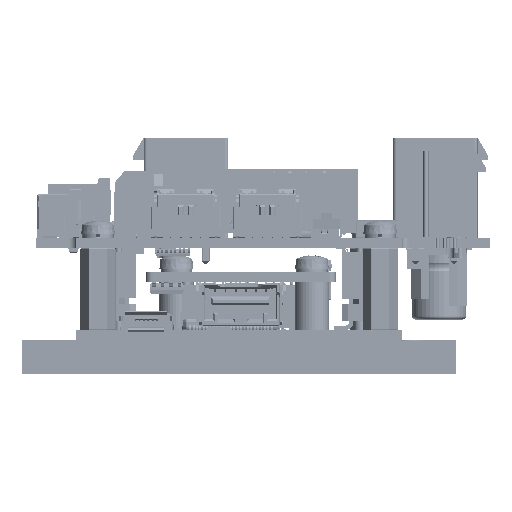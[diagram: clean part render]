
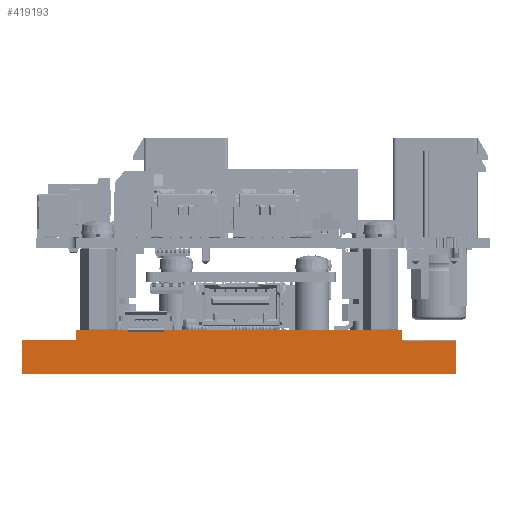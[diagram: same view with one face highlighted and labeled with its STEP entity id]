
A CAD part, front view. The second image highlights one B-rep face of the part: STEP entity #419193.
In plain terms, the highlighted planar face has unit normal (0, -1, 0).
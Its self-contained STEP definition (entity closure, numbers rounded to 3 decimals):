
#3903=DIRECTION('',(-1.,0.,0.));
#3904=VECTOR('',#3903,48.);
#3905=CARTESIAN_POINT('',(-62.976,-173.654,
-25.099));
#3906=LINE('',#3905,#3904);
#10836=DIRECTION('',(-1.,0.,0.));
#10837=VECTOR('',#10836,8.);
#10838=CARTESIAN_POINT('',(-110.976,-173.654,
-26.647));
#10839=LINE('',#10838,#10837);
#11092=DIRECTION('',(0.,0.,-1.));
#11093=VECTOR('',#11092,1.548);
#11094=CARTESIAN_POINT('',(-110.976,-173.654,
-25.099));
#11095=LINE('',#11094,#11093);
#11099=DIRECTION('',(0.,0.,-1.));
#11100=VECTOR('',#11099,4.9);
#11101=CARTESIAN_POINT('',(-54.976,-173.654,
-26.747));
#11102=LINE('',#11101,#11100);
#11106=DIRECTION('',(0.,0.,1.));
#11107=VECTOR('',#11106,1.648);
#11108=CARTESIAN_POINT('',(-62.976,-173.654,
-26.747));
#11109=LINE('',#11108,#11107);
#12004=DIRECTION('',(0.,0.,-1.));
#12005=VECTOR('',#12004,5.);
#12006=CARTESIAN_POINT('',(-118.976,-173.654,
-26.647));
#12007=LINE('',#12006,#12005);
#12039=DIRECTION('',(1.,0.,0.));
#12040=VECTOR('',#12039,64.);
#12041=CARTESIAN_POINT('',(-118.976,-173.654,
-31.647));
#12042=LINE('',#12041,#12040);
#12220=DIRECTION('',(-1.,0.,0.));
#12221=VECTOR('',#12220,8.);
#12222=CARTESIAN_POINT('',(-54.976,-173.654,
-26.747));
#12223=LINE('',#12222,#12221);
#352963=CARTESIAN_POINT('',(-54.976,-173.654,
-26.747));
#352964=CARTESIAN_POINT('',(-54.976,-173.654,
-31.647));
#352965=VERTEX_POINT('',#352963);
#352966=VERTEX_POINT('',#352964);
#352975=CARTESIAN_POINT('',(-62.976,-173.654,
-26.747));
#352976=VERTEX_POINT('',#352975);
#352977=CARTESIAN_POINT('',(-118.976,-173.654,
-31.647));
#352978=VERTEX_POINT('',#352977);
#352979=CARTESIAN_POINT('',(-118.976,-173.654,
-26.647));
#352980=VERTEX_POINT('',#352979);
#392421=CARTESIAN_POINT('',(-62.976,-173.654,
-25.099));
#392422=CARTESIAN_POINT('',(-110.976,-173.654,
-25.099));
#392423=VERTEX_POINT('',#392421);
#392424=VERTEX_POINT('',#392422);
#392837=CARTESIAN_POINT('',(-110.976,-173.654,
-26.647));
#392839=VERTEX_POINT('',#392837);
#419173=CARTESIAN_POINT('',(-54.976,-173.654,
-26.647));
#419174=DIRECTION('',(0.,1.,0.));
#419175=DIRECTION('',(0.,0.,-1.));
#419176=AXIS2_PLACEMENT_3D('',#419173,#419174,#419175);
#419177=PLANE('',#419176);
#419178=ORIENTED_EDGE('',*,*,#419084,.F.);
#419179=ORIENTED_EDGE('',*,*,#419168,.F.);
#419180=ORIENTED_EDGE('',*,*,#416541,.F.);
#419182=ORIENTED_EDGE('',*,*,#419181,.F.);
#419184=ORIENTED_EDGE('',*,*,#419183,.F.);
#419186=ORIENTED_EDGE('',*,*,#419185,.T.);
#419188=ORIENTED_EDGE('',*,*,#419187,.F.);
#419190=ORIENTED_EDGE('',*,*,#419189,.F.);
#419191=EDGE_LOOP('',(#419178,#419179,#419180,#419182,#419184,#419186,#419188,
#419190));
#419192=FACE_OUTER_BOUND('',#419191,.F.);
#419193=ADVANCED_FACE('',(#419192),#419177,.F.);
#416541=EDGE_CURVE('',#392423,#392424,#3906,.T.);
#419084=EDGE_CURVE('',#392839,#352980,#10839,.T.);
#419168=EDGE_CURVE('',#392424,#392839,#11095,.T.);
#419181=EDGE_CURVE('',#352976,#392423,#11109,.T.);
#419183=EDGE_CURVE('',#352965,#352976,#12223,.T.);
#419185=EDGE_CURVE('',#352965,#352966,#11102,.T.);
#419187=EDGE_CURVE('',#352978,#352966,#12042,.T.);
#419189=EDGE_CURVE('',#352980,#352978,#12007,.T.);
